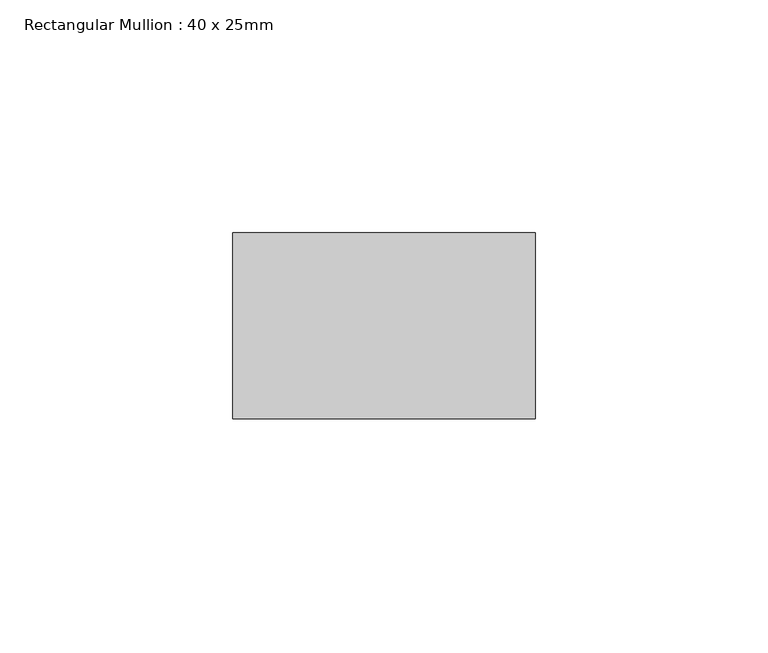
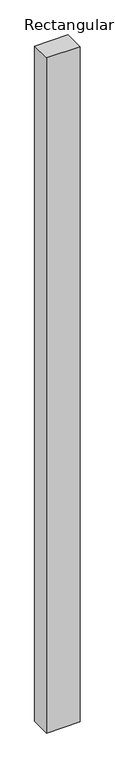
"""IFC4 building model written with IfcOpenShell, lengths in millimetres: member geometry, Rectangular Mullion : 40 x 25mm."""

import ifcopenshell
import ifcopenshell.guid

model = None  # the IFC model being written
_history = None  # IfcOwnerHistory: only IFC2X3 demands one
_inside = {}  # id of a spatial element -> (the spatial element, [elements in it])
_under = {}  # id of a project, library or spatial element -> (it, [spatial elements below it])
_declared = {}  # id of a project -> (the project, [libraries it declares])
_typed = {}  # id of a type object -> (the type object, [elements of that type])
_made_of = {}  # id of a material, layer set ... -> (it, [elements and type objects made of it])


def new_model(schema):
    """Start an empty IFC model of exactly this schema.

    Asked for "IFC4X3", IfcOpenShell would pick the latest addendum, in which some entities
    have other attributes; the version numbers below select the first issue.
    IFC2X3 requires an IfcOwnerHistory on every rooted entity: one is made here for all.
    """
    global model, _history
    if schema == "IFC4X3":
        model = ifcopenshell.file(schema_version=(4, 3, 0, 0))
    else:
        model = ifcopenshell.file(schema=schema)
    _inside.clear()
    _under.clear()
    _declared.clear()
    _typed.clear()
    _made_of.clear()
    _history = None
    if model.schema == "IFC2X3":
        org = make("IfcOrganization", Name="unknown")
        user = make(
            "IfcPersonAndOrganization",
            ThePerson=make("IfcPerson", FamilyName="unknown"),
            TheOrganization=org,
        )
        app = make(
            "IfcApplication",
            ApplicationDeveloper=org,
            Version="unknown",
            ApplicationFullName="unknown",
            ApplicationIdentifier="unknown",
        )
        _history = make(
            "IfcOwnerHistory",
            OwningUser=user,
            OwningApplication=app,
            ChangeAction="ADDED",
            CreationDate=0,
        )
    return model


def make(cls, **values):
    """One entity of the class cls with the attributes given. An attribute that is None is left unset."""
    return model.create_entity(
        cls, **{name: value for name, value in values.items() if value is not None}
    )


def rooted(cls, **values):
    """An entity with a GlobalId (a new one), such as an element, a storey or a relation."""
    return make(cls, GlobalId=ifcopenshell.guid.new(), OwnerHistory=_history, **values)


def si_unit(unit_type, name, prefix=None):
    """IfcSIUnit, for example si_unit("LENGTHUNIT", "METRE", prefix="MILLI")."""
    return make("IfcSIUnit", UnitType=unit_type, Prefix=prefix, Name=name)


def assignment(units):
    """IfcUnitAssignment: the units of a project."""
    return None if units is None else make("IfcUnitAssignment", Units=units)


def point(xyz):
    """IfcCartesianPoint."""
    return None if xyz is None else make("IfcCartesianPoint", Coordinates=xyz)


def direction(xyz):
    """IfcDirection."""
    return None if xyz is None else make("IfcDirection", DirectionRatios=xyz)


def frame(location, z_axis=None, x_axis=None):
    """IfcAxis2Placement3D, a coordinate frame: its origin and axes. An axis left out is left unset."""
    return make(
        "IfcAxis2Placement3D",
        Location=point(location),
        Axis=direction(z_axis),
        RefDirection=direction(x_axis),
    )


def origin():
    """The frame at (0, 0, 0) with its axes left unset."""
    return frame((0.0, 0.0, 0.0))


def place(relative_to, where):
    """IfcLocalPlacement: puts the frame where relative to a parent placement (None: the world)."""
    return make(
        "IfcLocalPlacement", PlacementRelTo=relative_to, RelativePlacement=where
    )


def context(
    kind, dimensions, precision=None, world=None, true_north=None, identifier=None
):
    """IfcGeometricRepresentationContext, for example the 3D "Model" context."""
    return make(
        "IfcGeometricRepresentationContext",
        ContextIdentifier=identifier,
        ContextType=kind,
        CoordinateSpaceDimension=dimensions,
        Precision=precision,
        WorldCoordinateSystem=world,
        TrueNorth=true_north,
    )


def project(units=None, contexts=None):
    """IfcProject with its units and contexts."""
    return rooted(
        "IfcProject",
        Name="project",
        RepresentationContexts=contexts,
        UnitsInContext=assignment(units),
    )


def spatial(cls, under=None, at=None, **own):
    """A site, building, storey or space (cls), placed at a placement, below another one or the project."""
    s = rooted(cls, ObjectPlacement=at, **own)
    if under is not None:
        _under.setdefault(under.id(), (under, []))[1].append(s)
    return s


def polyline(points):
    """IfcPolyline through the points."""
    return make("IfcPolyline", Points=[point(p) for p in points])


def outline(outer, holes=None, kind="AREA"):
    """IfcArbitraryClosedProfileDef: a profile drawn as a closed curve; with holes, ...WithVoids."""
    if holes is None:
        return make("IfcArbitraryClosedProfileDef", ProfileType=kind, OuterCurve=outer)
    return make(
        "IfcArbitraryProfileDefWithVoids",
        ProfileType=kind,
        OuterCurve=outer,
        InnerCurves=holes,
    )


def extrude(swept, where, along, depth):
    """IfcExtrudedAreaSolid: the profile swept, set in the frame where, extruded along a direction by depth."""
    return make(
        "IfcExtrudedAreaSolid",
        SweptArea=swept,
        Position=where,
        ExtrudedDirection=direction(along),
        Depth=depth,
    )


def shape(context_of_items, identifier, shape_type, items):
    """IfcShapeRepresentation: the items that make up one representation, for example the "Body"."""
    return make(
        "IfcShapeRepresentation",
        ContextOfItems=context_of_items,
        RepresentationIdentifier=identifier,
        RepresentationType=shape_type,
        Items=items,
    )


def source(mapping_origin, context_of_items, identifier, shape_type, items):
    """IfcRepresentationMap: a shape defined once, which mapped items show again and again."""
    return make(
        "IfcRepresentationMap",
        MappingOrigin=mapping_origin,
        MappedRepresentation=shape(context_of_items, identifier, shape_type, items),
    )


def transform(
    local_origin,
    x_axis=None,
    y_axis=None,
    z_axis=None,
    scale=None,
    scale2=None,
    scale3=None,
    uniform=True,
):
    """IfcCartesianTransformationOperator3D, or its non-uniform kind. x_axis, y_axis, z_axis: its Axis1, 2, 3."""
    if uniform:
        return make(
            "IfcCartesianTransformationOperator3D",
            Axis1=direction(x_axis),
            Axis2=direction(y_axis),
            LocalOrigin=point(local_origin),
            Scale=scale,
            Axis3=direction(z_axis),
        )
    return make(
        "IfcCartesianTransformationOperator3DnonUniform",
        Axis1=direction(x_axis),
        Axis2=direction(y_axis),
        LocalOrigin=point(local_origin),
        Scale=scale,
        Axis3=direction(z_axis),
        Scale2=scale2,
        Scale3=scale3,
    )


def mapped(mapping_source, mapping_target):
    """IfcMappedItem: shows the shape of a source again, moved by a transform."""
    return make(
        "IfcMappedItem", MappingSource=mapping_source, MappingTarget=mapping_target
    )


def made_of(thing, what):
    """Note that an element or type object is made of a material, layer set ...; save() writes the relation."""
    if what is not None:
        _made_of.setdefault(what.id(), (what, []))[1].append(thing)
    return thing


def element(
    cls,
    number,
    at=None,
    inside=None,
    cuts=None,
    type_object=None,
    material=None,
    context=None,
    identifier="Body",
    shape_type=None,
    held_by="IfcProductDefinitionShape",
    body=None,
    shapes=None,
    **own,
):
    """One element of the class cls, such as IfcWall. Its Tag is "e" and its number.

    at: its placement. inside: the storey or other place that contains it. cuts: it is an
    opening in that element (IfcRelVoidsElement). A single representation is given by context,
    identifier, shape_type and body (its items); several are given by shapes. held_by: the class
    of the entity that holds the representations. save() writes the other relations.
    """
    e = rooted(cls, Tag="e%d" % number, ObjectPlacement=at, **own)
    if body is not None:
        shapes = [shape(context, identifier, shape_type, body)]
    if shapes is not None:
        e.Representation = make(held_by, Representations=shapes)
    if inside is not None:
        _inside.setdefault(inside.id(), (inside, []))[1].append(e)
    if cuts is not None:
        rooted(
            "IfcRelVoidsElement", RelatingBuildingElement=cuts, RelatedOpeningElement=e
        )
    if type_object is not None:
        _typed.setdefault(type_object.id(), (type_object, []))[1].append(e)
    return made_of(e, material)


def aggregate(whole, parts):
    """IfcRelAggregates: a whole, such as a stair, and the parts it consists of."""
    return rooted("IfcRelAggregates", RelatingObject=whole, RelatedObjects=parts)


def save(model, path):
    """Write the relations noted so far, then the file.

    IfcRelAggregates (storeys below a building ...), IfcRelContainedInSpatialStructure (elements
    in a storey), IfcRelDefinesByType, IfcRelAssociatesMaterial and IfcRelDeclares: one each for
    every whole, place, type object, material and project.
    """
    for whole, parts in _under.values():
        aggregate(whole, parts)
    for where, things in _inside.values():
        rooted(
            "IfcRelContainedInSpatialStructure",
            RelatedElements=things,
            RelatingStructure=where,
        )
    for kind, things in _typed.values():
        rooted("IfcRelDefinesByType", RelatedObjects=things, RelatingType=kind)
    for what, things in _made_of.values():
        rooted("IfcRelAssociatesMaterial", RelatedObjects=things, RelatingMaterial=what)
    for by, libraries in _declared.values():
        rooted("IfcRelDeclares", RelatingContext=by, RelatedDefinitions=libraries)
    model.write(path)


def rectangular_mullion_40_x_25mm_1e0deb39(model_context):
    return source(origin(), model_context, "Body", "SweptSolid", [
        extrude(outline(polyline([(0.0, -20.0), (0.0, -60.0), (-65.0, -60.0), (-65.0, -20.0), (0.0, -20.0)])), frame((0.0, 0.0, -1382.4725229), z_axis=(0.0, 0.0, 1.0), x_axis=(1.0, 0.0, 0.0)), (0.0, 0.0, 1.0), 1382.4725229),
    ])


if __name__ == "__main__":
    model = new_model("IFC4")
    model_context = context("Model", 3, world=origin())
    ifc_project = project(units=[si_unit("LENGTHUNIT", "METRE", prefix="MILLI")], contexts=[model_context])
    site = spatial("IfcSite", under=ifc_project)
    building = spatial("IfcBuilding", under=site)
    placement = place(None, origin())
    rectangular_mullion_40_x_25mm_shape = rectangular_mullion_40_x_25mm_1e0deb39(model_context)
    element("IfcMember", 1, ObjectType="Rectangular Mullion : 40 x 25mm", at=placement, inside=building, context=model_context, shape_type="MappedRepresentation", body=[
        mapped(rectangular_mullion_40_x_25mm_shape, transform((0.0, 0.0, 0.0), x_axis=(1.0, 0.0, 0.0), y_axis=(0.0, 1.0, 0.0), z_axis=(0.0, 0.0, 1.0))),
    ])
    save(model, "model.ifc")
